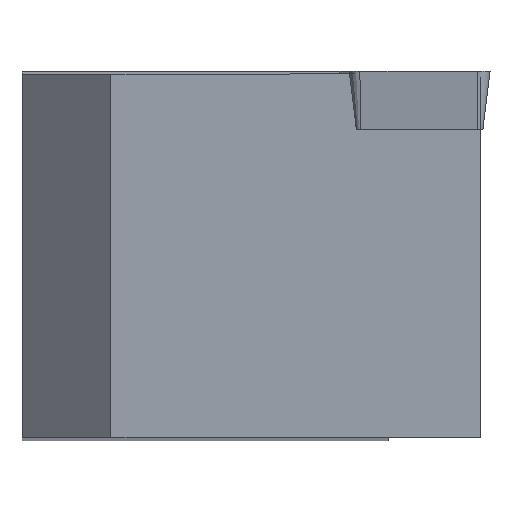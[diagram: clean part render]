
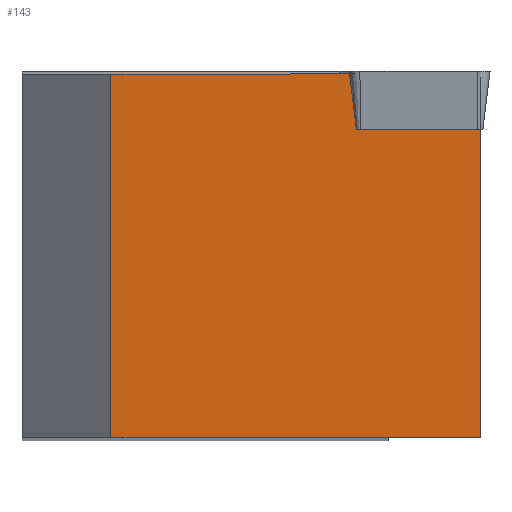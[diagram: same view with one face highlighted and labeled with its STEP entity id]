
A CAD part, top view. The second image highlights one B-rep face of the part: STEP entity #143.
In plain terms, the highlighted planar face has unit normal (-0.087, 0, 0.996).
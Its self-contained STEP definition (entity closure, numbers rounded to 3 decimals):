
#121=PLANE('',#509);
#143=ADVANCED_FACE('',(#166),#121,.F.);
#166=FACE_OUTER_BOUND('',#191,.T.);
#191=EDGE_LOOP('',(#373,#374,#375,#376));
#215=LINE('',#688,#257);
#227=LINE('',#712,#269);
#233=LINE('',#724,#275);
#234=LINE('',#726,#276);
#257=VECTOR('',#577,1.);
#269=VECTOR('',#599,1.);
#275=VECTOR('',#611,1.);
#276=VECTOR('',#614,1.);
#373=ORIENTED_EDGE('',*,*,#466,.T.);
#374=ORIENTED_EDGE('',*,*,#460,.F.);
#375=ORIENTED_EDGE('',*,*,#467,.T.);
#376=ORIENTED_EDGE('',*,*,#448,.F.);
#399=VERTEX_POINT('',#676);
#405=VERTEX_POINT('',#687);
#413=VERTEX_POINT('',#713);
#414=VERTEX_POINT('',#714);
#448=EDGE_CURVE('',#405,#399,#215,.T.);
#460=EDGE_CURVE('',#413,#414,#227,.T.);
#466=EDGE_CURVE('',#405,#414,#233,.T.);
#467=EDGE_CURVE('',#413,#399,#234,.T.);
#509=AXIS2_PLACEMENT_3D('',#727,#615,#616);
#577=DIRECTION('',(-0.996,0.,-0.087));
#599=DIRECTION('',(0.996,0.,0.087));
#611=DIRECTION('',(0.,1.,0.));
#614=DIRECTION('',(0.,-1.,0.));
#615=DIRECTION('',(0.087,0.,-0.996));
#616=DIRECTION('',(-0.996,0.,-0.087));
#676=CARTESIAN_POINT('',(-9.923,-12.5,-2.823));
#687=CARTESIAN_POINT('',(15.287,-12.5,-0.618));
#688=CARTESIAN_POINT('',(-29.746,-12.5,-4.558));
#712=CARTESIAN_POINT('',(-15.709,12.3,-3.329));
#713=CARTESIAN_POINT('',(-9.923,12.3,-2.823));
#714=CARTESIAN_POINT('',(15.287,12.3,-0.618));
#724=CARTESIAN_POINT('',(15.287,-12.5,-0.618));
#726=CARTESIAN_POINT('',(-9.923,-12.5,-2.823));
#727=CARTESIAN_POINT('',(-29.746,-12.5,-4.558));
